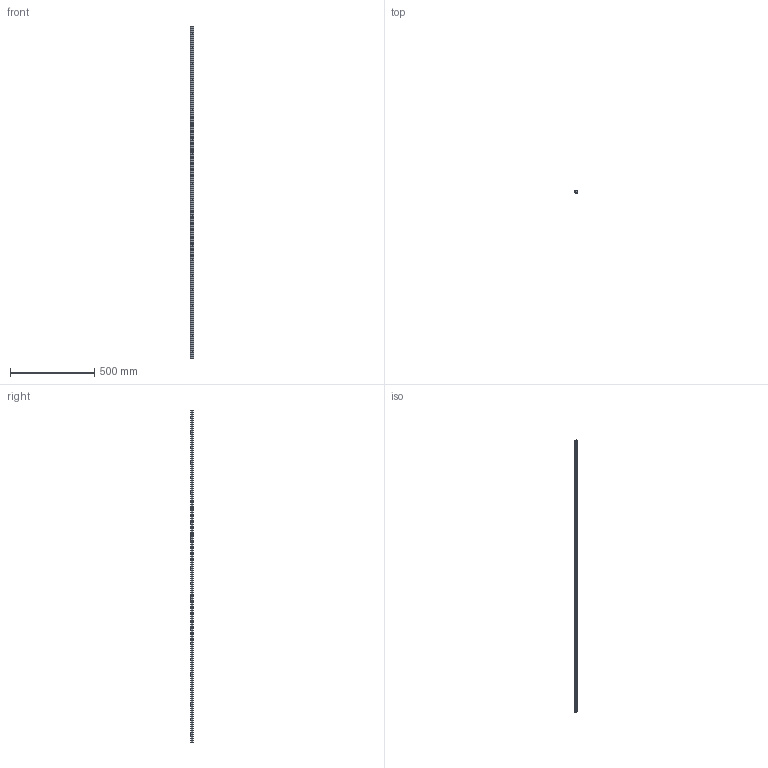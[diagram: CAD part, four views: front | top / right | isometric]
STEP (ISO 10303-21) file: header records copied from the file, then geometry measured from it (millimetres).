
FILE_DESCRIPTION(('STEP AP203'),'1');
FILE_NAME('slide_nsel1976p3.stp','2022-07-04T01:21:59',('TraceParts'),('TraceParts S.A.'),'Spatial InterOp 3D',' ',' ');
FILE_SCHEMA(('CONFIG_CONTROL_DESIGN'));
Length unit declared in the file: millimetre
Products named in the file (1): 1
Bounding box: 21.32 x 12.66 x 1976 mm (x, y, z)
Volume: 390915.1 mm3; surface area: 147840.9 mm2
Topology: 1 solids, 1 shells, 133 faces, 327 edges, 218 vertices
Faces by surface type: cylinder 98, plane 35
Entity records: 4169 total; most frequent: DIRECTION 791, CARTESIAN_POINT 679, ORIENTED_EDGE 654, AXIS2_PLACEMENT_3D 330, EDGE_CURVE 327, VERTEX_POINT 218, EDGE_LOOP 199, CIRCLE 196
